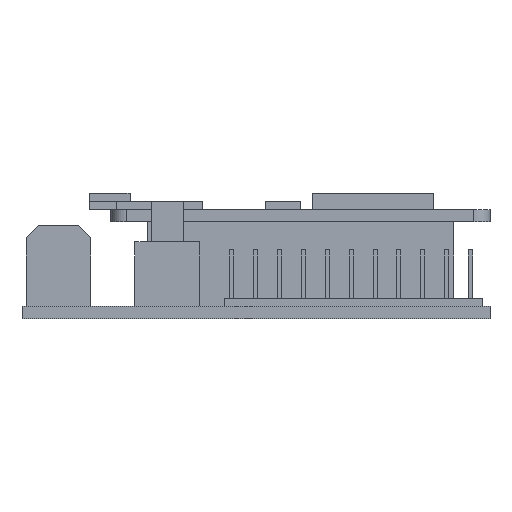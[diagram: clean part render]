
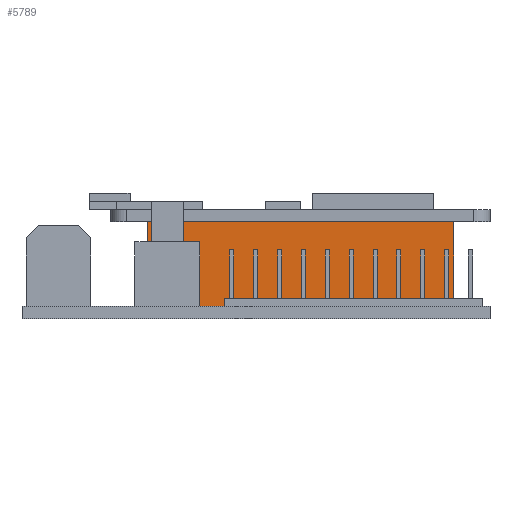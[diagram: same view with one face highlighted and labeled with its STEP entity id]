
A CAD part, front view. The second image highlights one B-rep face of the part: STEP entity #5789.
In plain terms, the highlighted planar face has unit normal (0, -1, 0).
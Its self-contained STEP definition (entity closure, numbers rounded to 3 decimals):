
#3838 = PLANE('',#3839);
#3839 = AXIS2_PLACEMENT_3D('',#3840,#3841,#3842);
#3840 = CARTESIAN_POINT('',(0.,0.,1.5));
#3841 = DIRECTION('',(-0.,-0.,-1.));
#3842 = DIRECTION('',(-1.,0.,0.));
#4095 = VERTEX_POINT('',#4096);
#4096 = CARTESIAN_POINT('',(-13.5,-1.,1.5));
#4110 = PLANE('',#4111);
#4111 = AXIS2_PLACEMENT_3D('',#4112,#4113,#4114);
#4112 = CARTESIAN_POINT('',(-13.5,1.,1.5));
#4113 = DIRECTION('',(1.,0.,0.));
#4114 = DIRECTION('',(0.,-1.,0.));
#4122 = EDGE_CURVE('',#4095,#4123,#4125,.T.);
#4123 = VERTEX_POINT('',#4124);
#4124 = CARTESIAN_POINT('',(24.5,-1.,1.5));
#4125 = SURFACE_CURVE('',#4126,(#4130,#4137),.PCURVE_S1.);
#4126 = LINE('',#4127,#4128);
#4127 = CARTESIAN_POINT('',(-13.5,-1.,1.5));
#4128 = VECTOR('',#4129,1.);
#4129 = DIRECTION('',(1.,0.,0.));
#4130 = PCURVE('',#3838,#4131);
#4131 = DEFINITIONAL_REPRESENTATION('',(#4132),#4136);
#4132 = LINE('',#4133,#4134);
#4133 = CARTESIAN_POINT('',(13.5,-1.));
#4134 = VECTOR('',#4135,1.);
#4135 = DIRECTION('',(-1.,0.));
#4136 = ( GEOMETRIC_REPRESENTATION_CONTEXT(2) 
PARAMETRIC_REPRESENTATION_CONTEXT() REPRESENTATION_CONTEXT('2D SPACE',''
  ) );
#4137 = PCURVE('',#4138,#4143);
#4138 = PLANE('',#4139);
#4139 = AXIS2_PLACEMENT_3D('',#4140,#4141,#4142);
#4140 = CARTESIAN_POINT('',(-13.5,-1.,1.5));
#4141 = DIRECTION('',(0.,1.,0.));
#4142 = DIRECTION('',(1.,0.,0.));
#4143 = DEFINITIONAL_REPRESENTATION('',(#4144),#4148);
#4144 = LINE('',#4145,#4146);
#4145 = CARTESIAN_POINT('',(0.,0.));
#4146 = VECTOR('',#4147,1.);
#4147 = DIRECTION('',(1.,0.));
#4148 = ( GEOMETRIC_REPRESENTATION_CONTEXT(2) 
PARAMETRIC_REPRESENTATION_CONTEXT() REPRESENTATION_CONTEXT('2D SPACE',''
  ) );
#4166 = PLANE('',#4167);
#4167 = AXIS2_PLACEMENT_3D('',#4168,#4169,#4170);
#4168 = CARTESIAN_POINT('',(24.5,-1.,1.5));
#4169 = DIRECTION('',(-1.,0.,0.));
#4170 = DIRECTION('',(0.,1.,0.));
#5692 = VERTEX_POINT('',#5693);
#5693 = CARTESIAN_POINT('',(-13.5,-1.,12.5));
#5707 = PLANE('',#5708);
#5708 = AXIS2_PLACEMENT_3D('',#5709,#5710,#5711);
#5709 = CARTESIAN_POINT('',(5.5,0.,12.5));
#5710 = DIRECTION('',(0.,0.,1.));
#5711 = DIRECTION('',(1.,0.,0.));
#5719 = EDGE_CURVE('',#4095,#5692,#5720,.T.);
#5720 = SURFACE_CURVE('',#5721,(#5725,#5732),.PCURVE_S1.);
#5721 = LINE('',#5722,#5723);
#5722 = CARTESIAN_POINT('',(-13.5,-1.,1.5));
#5723 = VECTOR('',#5724,1.);
#5724 = DIRECTION('',(0.,0.,1.));
#5725 = PCURVE('',#4110,#5726);
#5726 = DEFINITIONAL_REPRESENTATION('',(#5727),#5731);
#5727 = LINE('',#5728,#5729);
#5728 = CARTESIAN_POINT('',(2.,0.));
#5729 = VECTOR('',#5730,1.);
#5730 = DIRECTION('',(0.,-1.));
#5731 = ( GEOMETRIC_REPRESENTATION_CONTEXT(2) 
PARAMETRIC_REPRESENTATION_CONTEXT() REPRESENTATION_CONTEXT('2D SPACE',''
  ) );
#5732 = PCURVE('',#4138,#5733);
#5733 = DEFINITIONAL_REPRESENTATION('',(#5734),#5738);
#5734 = LINE('',#5735,#5736);
#5735 = CARTESIAN_POINT('',(0.,0.));
#5736 = VECTOR('',#5737,1.);
#5737 = DIRECTION('',(0.,-1.));
#5738 = ( GEOMETRIC_REPRESENTATION_CONTEXT(2) 
PARAMETRIC_REPRESENTATION_CONTEXT() REPRESENTATION_CONTEXT('2D SPACE',''
  ) );
#5789 = ADVANCED_FACE('',(#5790),#4138,.F.);
#5790 = FACE_BOUND('',#5791,.F.);
#5791 = EDGE_LOOP('',(#5792,#5793,#5816,#5837));
#5792 = ORIENTED_EDGE('',*,*,#5719,.T.);
#5793 = ORIENTED_EDGE('',*,*,#5794,.T.);
#5794 = EDGE_CURVE('',#5692,#5795,#5797,.T.);
#5795 = VERTEX_POINT('',#5796);
#5796 = CARTESIAN_POINT('',(24.5,-1.,12.5));
#5797 = SURFACE_CURVE('',#5798,(#5802,#5809),.PCURVE_S1.);
#5798 = LINE('',#5799,#5800);
#5799 = CARTESIAN_POINT('',(-13.5,-1.,12.5));
#5800 = VECTOR('',#5801,1.);
#5801 = DIRECTION('',(1.,0.,0.));
#5802 = PCURVE('',#4138,#5803);
#5803 = DEFINITIONAL_REPRESENTATION('',(#5804),#5808);
#5804 = LINE('',#5805,#5806);
#5805 = CARTESIAN_POINT('',(0.,-11.));
#5806 = VECTOR('',#5807,1.);
#5807 = DIRECTION('',(1.,0.));
#5808 = ( GEOMETRIC_REPRESENTATION_CONTEXT(2) 
PARAMETRIC_REPRESENTATION_CONTEXT() REPRESENTATION_CONTEXT('2D SPACE',''
  ) );
#5809 = PCURVE('',#5707,#5810);
#5810 = DEFINITIONAL_REPRESENTATION('',(#5811),#5815);
#5811 = LINE('',#5812,#5813);
#5812 = CARTESIAN_POINT('',(-19.,-1.));
#5813 = VECTOR('',#5814,1.);
#5814 = DIRECTION('',(1.,0.));
#5815 = ( GEOMETRIC_REPRESENTATION_CONTEXT(2) 
PARAMETRIC_REPRESENTATION_CONTEXT() REPRESENTATION_CONTEXT('2D SPACE',''
  ) );
#5816 = ORIENTED_EDGE('',*,*,#5817,.F.);
#5817 = EDGE_CURVE('',#4123,#5795,#5818,.T.);
#5818 = SURFACE_CURVE('',#5819,(#5823,#5830),.PCURVE_S1.);
#5819 = LINE('',#5820,#5821);
#5820 = CARTESIAN_POINT('',(24.5,-1.,1.5));
#5821 = VECTOR('',#5822,1.);
#5822 = DIRECTION('',(0.,0.,1.));
#5823 = PCURVE('',#4138,#5824);
#5824 = DEFINITIONAL_REPRESENTATION('',(#5825),#5829);
#5825 = LINE('',#5826,#5827);
#5826 = CARTESIAN_POINT('',(38.,0.));
#5827 = VECTOR('',#5828,1.);
#5828 = DIRECTION('',(0.,-1.));
#5829 = ( GEOMETRIC_REPRESENTATION_CONTEXT(2) 
PARAMETRIC_REPRESENTATION_CONTEXT() REPRESENTATION_CONTEXT('2D SPACE',''
  ) );
#5830 = PCURVE('',#4166,#5831);
#5831 = DEFINITIONAL_REPRESENTATION('',(#5832),#5836);
#5832 = LINE('',#5833,#5834);
#5833 = CARTESIAN_POINT('',(0.,0.));
#5834 = VECTOR('',#5835,1.);
#5835 = DIRECTION('',(0.,-1.));
#5836 = ( GEOMETRIC_REPRESENTATION_CONTEXT(2) 
PARAMETRIC_REPRESENTATION_CONTEXT() REPRESENTATION_CONTEXT('2D SPACE',''
  ) );
#5837 = ORIENTED_EDGE('',*,*,#4122,.F.);
